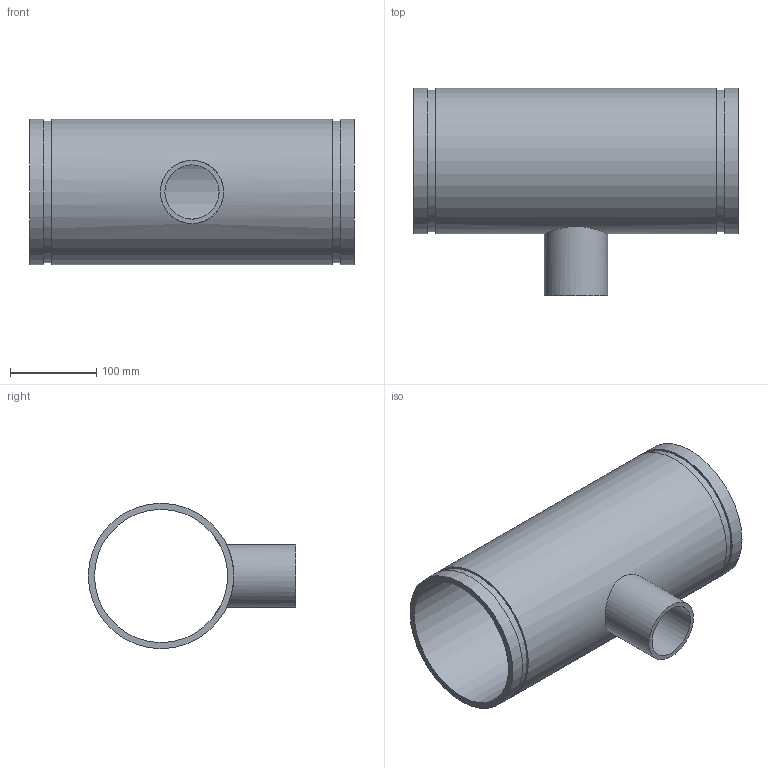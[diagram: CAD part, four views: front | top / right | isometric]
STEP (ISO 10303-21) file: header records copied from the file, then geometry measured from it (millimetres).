
FILE_DESCRIPTION(/* description */ ('VIC REDUCING TEE No 29T FFT (OGSxMPT)','CAx-IF Rec.Pracs.---Representation and Presentation of Product Manufacturing Information (PMI)---4.0---2014-10-13'),/* implementation_level */ '2;1');
FILE_NAME(/* name */ 'C:\Users\kkamble\AppData\Roaming\Autodesk\ApplicationPlugins\Back Up\Victaulic_IPS_Tee Reducing_No 29T FFT (OGSxMPT)\Victaulic_IPS_Tee Reducing_No 29T FFT (OGSxMPT)_06.0x02.5 (150x65).stp',/* time_stamp */ '2020-09-16T22:38:30+05:00',/* author */ ('CORINNE GRAY'),/* organization */ ('Victaulic'),/* preprocessor_version */ 'ST-DEVELOPER v17.2',/* originating_system */ 'Autodesk Inventor 2019',/* authorisation */ '');
FILE_SCHEMA (('AP242_MANAGED_MODEL_BASED_3D_ENGINEERING_MIM_LF { 1 0 10303 442 1 1 4 }'));
Length unit declared in the file: inch
Products named in the file (1): 29 FFT-06.0x02.5
Bounding box: 374.9 x 239.84 x 168.28 mm (x, y, z)
Volume: 1388699.1 mm3; surface area: 418244.3 mm2
Topology: 1 solids, 1 shells, 15 faces, 32 edges, 24 vertices
Faces by surface type: cylinder 8, plane 7
Full cylindrical faces by diameter (mm): 62.713 x1, 73.025 x1, 154.051 x1, 163.957 x2, 168.275 x3
Entity records: 709 total; most frequent: CARTESIAN_POINT 221, DIRECTION 106, ORIENTED_EDGE 64, AXIS2_PLACEMENT_3D 49, EDGE_CURVE 32, EDGE_LOOP 24, VERTEX_POINT 24, CIRCLE 20
